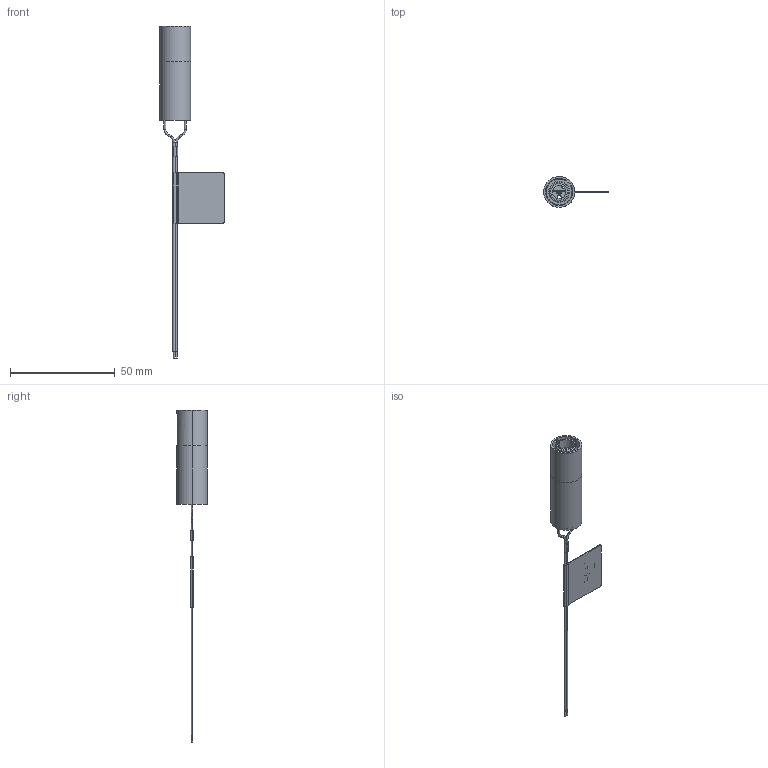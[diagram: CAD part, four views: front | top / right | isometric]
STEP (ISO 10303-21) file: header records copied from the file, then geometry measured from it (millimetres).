
FILE_DESCRIPTION (( 'STEP AP214' ), '1' );
FILE_NAME ('VLM2-3RL.STEP', '2020-01-09T17:45:34', ( '' ), ( '' ), 'SwSTEP 2.0', 'SolidWorks 2019', '' );
FILE_SCHEMA (( 'AUTOMOTIVE_DESIGN' ));
Length unit declared in the file: inch
Products named in the file (1): VLM2-3RL
Bounding box: 30.82 x 14.76 x 158.53 mm (x, y, z)
Surface area: 6527.5 mm2 (no closed solid volume)
Topology: 0 solids, 10 shells, 179 faces, 508 edges, 344 vertices
Faces by surface type: plane 99, cylinder 58, bspline 10, torus 8, cone 4
Entity records: 8648 total; most frequent: CARTESIAN_POINT 1610, DIRECTION 980, ORIENTED_EDGE 895, EDGE_CURVE 508, VERTEX_POINT 344, VECTOR 328, LINE 328, AXIS2_PLACEMENT_3D 326
